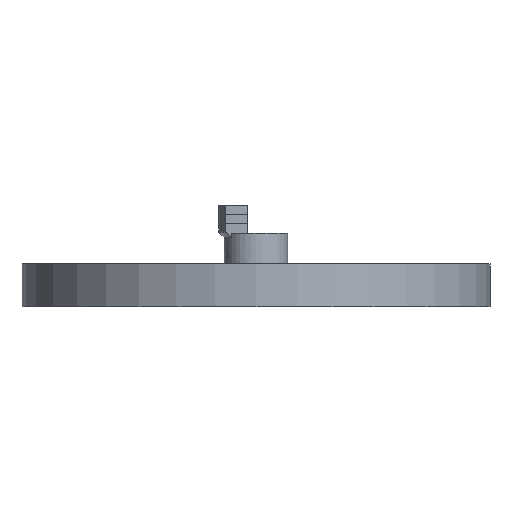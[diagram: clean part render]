
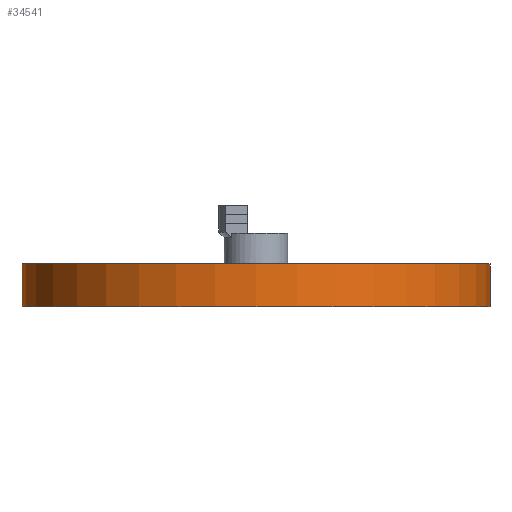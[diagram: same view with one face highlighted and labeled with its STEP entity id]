
A CAD part, left-side view. The second image highlights one B-rep face of the part: STEP entity #34541.
In plain terms, the highlighted cylindrical face has radius 44 mm (diameter 88 mm), a partial arc.
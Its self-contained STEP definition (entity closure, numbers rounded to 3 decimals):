
#3124 = ORIENTED_EDGE ( 'NONE', *, *, #37621, .F. ) ;
#5720 = DIRECTION ( 'NONE',  ( 0., 0., -1. ) ) ;
#6123 = CARTESIAN_POINT ( 'NONE',  ( 0., -4., 0. ) ) ;
#6571 = DIRECTION ( 'NONE',  ( 0., 0., -1. ) ) ;
#6758 = LINE ( 'NONE', #7640, #21342 ) ;
#7640 = CARTESIAN_POINT ( 'NONE',  ( 0., 128.451, -44. ) ) ;
#9740 = CYLINDRICAL_SURFACE ( 'NONE', #30410, 44. ) ;
#10093 = DIRECTION ( 'NONE',  ( 0., -1., 0. ) ) ;
#12821 = VERTEX_POINT ( 'NONE', #17112 ) ;
#14587 = FACE_OUTER_BOUND ( 'NONE', #16875, .T. ) ;
#15779 = VERTEX_POINT ( 'NONE', #22887 ) ;
#15982 = CARTESIAN_POINT ( 'NONE',  ( 0., -4., -44. ) ) ;
#16875 = EDGE_LOOP ( 'NONE', ( #22642, #20387, #22259, #3124 ) ) ;
#17112 = CARTESIAN_POINT ( 'NONE',  ( 0., 4., 44. ) ) ;
#17629 = CIRCLE ( 'NONE', #34932, 44. ) ;
#18990 = EDGE_CURVE ( 'NONE', #22907, #12821, #20840, .T. ) ;
#19714 = DIRECTION ( 'NONE',  ( 0., 0., -1. ) ) ;
#20387 = ORIENTED_EDGE ( 'NONE', *, *, #22275, .T. ) ;
#20840 = CIRCLE ( 'NONE', #21587, 44. ) ;
#21342 = VECTOR ( 'NONE', #35632, 1000. ) ;
#21587 = AXIS2_PLACEMENT_3D ( 'NONE', #34810, #10093, #19714 ) ;
#21934 = DIRECTION ( 'NONE',  ( 0., -1., 0. ) ) ;
#22259 = ORIENTED_EDGE ( 'NONE', *, *, #26568, .F. ) ;
#22275 = EDGE_CURVE ( 'NONE', #12821, #15779, #32238, .T. ) ;
#22642 = ORIENTED_EDGE ( 'NONE', *, *, #18990, .T. ) ;
#22887 = CARTESIAN_POINT ( 'NONE',  ( 0., -4., 44. ) ) ;
#22907 = VERTEX_POINT ( 'NONE', #34753 ) ;
#26568 = EDGE_CURVE ( 'NONE', #33373, #15779, #17629, .T. ) ;
#27602 = DIRECTION ( 'NONE',  ( 0., -1., 0. ) ) ;
#30410 = AXIS2_PLACEMENT_3D ( 'NONE', #30783, #21934, #6571 ) ;
#30783 = CARTESIAN_POINT ( 'NONE',  ( 0., 128.451, 0. ) ) ;
#32238 = LINE ( 'NONE', #36258, #40035 ) ;
#33373 = VERTEX_POINT ( 'NONE', #15982 ) ;
#34541 = ADVANCED_FACE ( 'NONE', ( #14587 ), #9740, .T. ) ;
#34753 = CARTESIAN_POINT ( 'NONE',  ( 0., 4., -44. ) ) ;
#34810 = CARTESIAN_POINT ( 'NONE',  ( 0., 4., 0. ) ) ;
#34932 = AXIS2_PLACEMENT_3D ( 'NONE', #6123, #27602, #5720 ) ;
#35632 = DIRECTION ( 'NONE',  ( 0., -1., 0. ) ) ;
#36120 = DIRECTION ( 'NONE',  ( 0., -1., 0. ) ) ;
#36258 = CARTESIAN_POINT ( 'NONE',  ( 0., 128.451, 44. ) ) ;
#37621 = EDGE_CURVE ( 'NONE', #22907, #33373, #6758, .T. ) ;
#40035 = VECTOR ( 'NONE', #36120, 1000. ) ;
